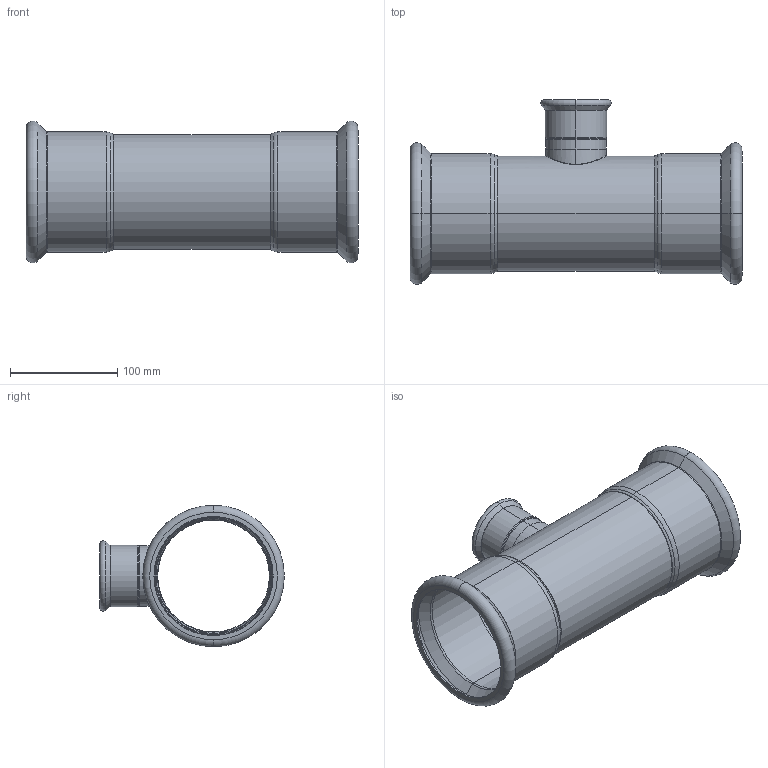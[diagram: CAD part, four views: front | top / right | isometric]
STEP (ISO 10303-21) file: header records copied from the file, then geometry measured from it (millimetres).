
FILE_DESCRIPTION (( 'STEP AP203' ), '1' );
FILE_NAME ('GDA5227.STEP', '2019-01-12T06:24:35', ( '' ), ( '' ), 'SwSTEP 2.0', 'SolidWorks 2015', '' );
FILE_SCHEMA (( 'CONFIG_CONTROL_DESIGN' ));
Length unit declared in the file: millimetre
Products named in the file (3): T(R)-Ⅰ-108×54''; T-ｉ-01-54; GDA5227
Assembly tree (2 placements, depth 2):
  GDA5227
    T(R)-Ⅰ-108×54''
    T-ｉ-01-54
Bounding box: 309 x 171.89 x 131.78 mm (x, y, z)
Volume: 185012.4 mm3; surface area: 247368.2 mm2
Topology: 2 solids, 2 shells, 114 faces, 234 edges, 128 vertices
Faces by surface type: torus 48, cylinder 30, cone 24, plane 8, bspline 4
Entity records: 4531 total; most frequent: CARTESIAN_POINT 1741, DIRECTION 620, ORIENTED_EDGE 468, AXIS2_PLACEMENT_3D 283, EDGE_CURVE 234, CIRCLE 168, VERTEX_POINT 128, EDGE_LOOP 124
